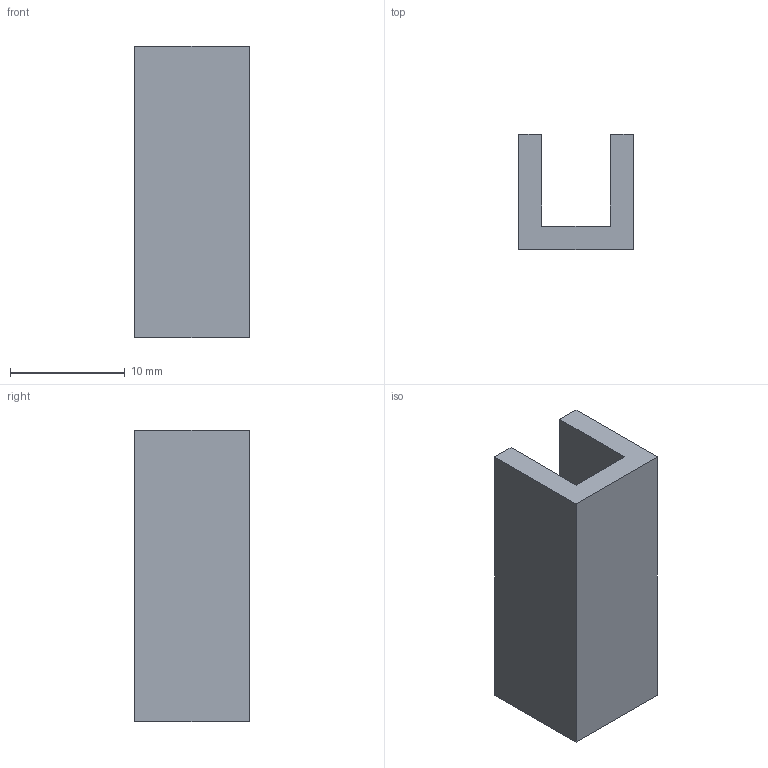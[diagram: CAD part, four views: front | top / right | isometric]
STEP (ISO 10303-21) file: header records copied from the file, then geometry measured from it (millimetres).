
FILE_DESCRIPTION((''),'2;1');
FILE_NAME('C:\Documents and Settings\Administrator\My Documents\Andys Backup Data\STEP LIBRARIES\MINITEC STEP LIBRARIES\EDGE COVER SLIDE AND SEALING PROFILES\21.1002 U PROFILE.stp','2008-10-23T07:53:11',('Administrator'),(''),'Autodesk Inventor 2009','Autodesk Inventor 2009','');
FILE_SCHEMA(('AUTOMOTIVE_DESIGN { 1 0 10303 214 1 1 1 1 }'));
Length unit declared in the file: inch
Products named in the file (1): 21.1002 U PROFILE
Bounding box: 10 x 10 x 25.4 mm (x, y, z)
Volume: 1320.8 mm3; surface area: 1526.4 mm2
Topology: 1 solids, 1 shells, 10 faces, 24 edges, 16 vertices
Faces by surface type: plane 10
Entity records: 316 total; most frequent: CARTESIAN_POINT 51, ORIENTED_EDGE 48, DIRECTION 46, VECTOR 24, LINE 24, EDGE_CURVE 24, VERTEX_POINT 16, AXIS2_PLACEMENT_3D 11
